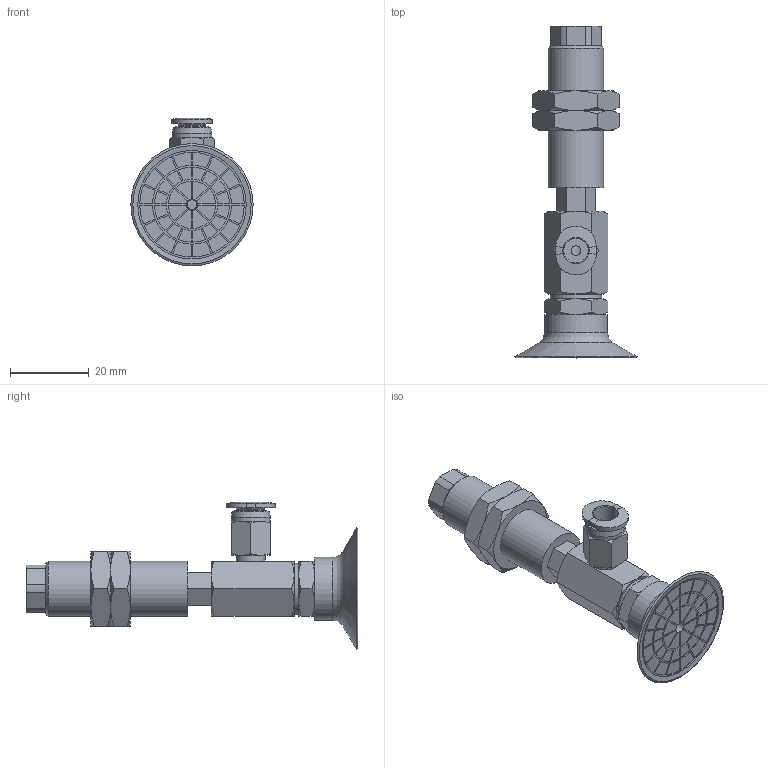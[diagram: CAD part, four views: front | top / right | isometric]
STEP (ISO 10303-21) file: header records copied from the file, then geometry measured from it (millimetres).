
FILE_DESCRIPTION(('STEP AP203'),'1');
FILE_NAME('-O.stp','2025-03-13T03:29:48',(' '),(' '),'Spatial InterOp 3D',' ',' ');
FILE_SCHEMA(('CONFIG_CONTROL_DESIGN'));
Length unit declared in the file: millimetre
Products named in the file (8): BNABPAYH-30B-6-※-O; NAPATH-30B-6--M; NAPATH-30B-6--F; Nut-25-S; CONNECTOR-30B-6-PA; TN-PA-30B-M6; PC-C_06-M5; BPAG-30B-※
Assembly tree (8 placements, depth 2):
  BNABPAYH-30B-6-※-O
    NAPATH-30B-6--M
    NAPATH-30B-6--F
    Nut-25-S  x2
    CONNECTOR-30B-6-PA
    TN-PA-30B-M6
    PC-C_06-M5
    BPAG-30B-※
Bounding box: 31.04 x 84.2 x 37.5 mm (x, y, z)
Volume: 16045.9 mm3; surface area: 12724.6 mm2
Topology: 8 solids, 8 shells, 425 faces, 973 edges, 618 vertices
Faces by surface type: plane 224, cylinder 105, cone 81, torus 8, bspline 4, revolution 3
Full cylindrical faces by diameter (mm): 2.5 x1, 3 x2, 4 x2, 4.134 x2, 4.917 x1, 5 x2, 6 x3, 7 x1, 7.4 x1, 8.2 x1, 10 x3, 12.917 x2, 13 x1, 14 x1, 16 x1, 27.5 x1
Entity records: 11958 total; most frequent: CARTESIAN_POINT 2661, DIRECTION 1867, ORIENTED_EDGE 1732, EDGE_CURVE 866, AXIS2_PLACEMENT_3D 704, VERTEX_POINT 582, EDGE_LOOP 518, LINE 456
